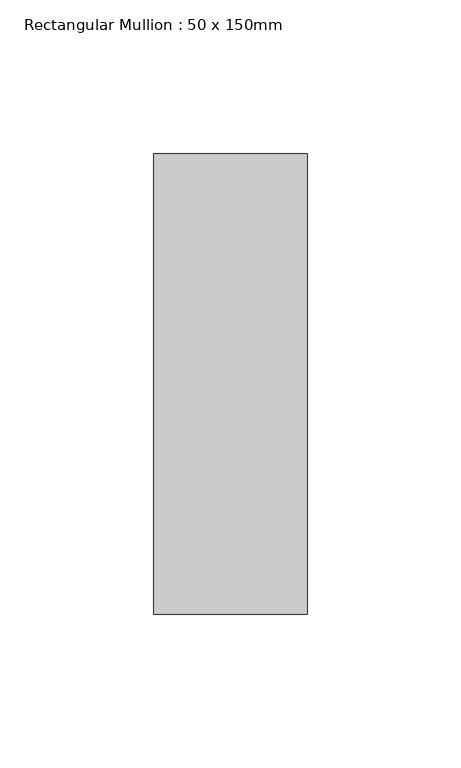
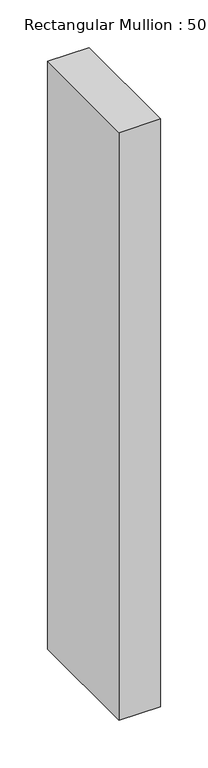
"""IFC4 building model written with IfcOpenShell, lengths in millimetres: member geometry, Rectangular Mullion : 50 x 150mm."""

from ifc_helpers import new_model, si_unit, frame, origin, place, context, project, spatial, polyline, outline, extrude, source, transform, mapped, element, save


def rectangular_mullion_50_x_150mm_823f78f2(model_context):
    return source(origin(), model_context, "Body", "SweptSolid", [
        extrude(outline(polyline([(25.0, 75.0), (25.0, -75.0), (-25.0, -75.0), (-25.0, 75.0), (25.0, 75.0)])), frame((0.0, 0.0, -751.5075557), z_axis=(0.0, 0.0, 1.0), x_axis=(1.0, 0.0, 0.0)), (0.0, 0.0, 1.0), 751.5075557),
    ])


if __name__ == "__main__":
    model = new_model("IFC4")
    model_context = context("Model", 3, world=origin())
    ifc_project = project(units=[si_unit("LENGTHUNIT", "METRE", prefix="MILLI")], contexts=[model_context])
    site = spatial("IfcSite", under=ifc_project)
    building = spatial("IfcBuilding", under=site)
    placement = place(None, origin())
    rectangular_mullion_50_x_150mm_shape = rectangular_mullion_50_x_150mm_823f78f2(model_context)
    element("IfcMember", 1, ObjectType="Rectangular Mullion : 50 x 150mm", at=placement, inside=building, context=model_context, shape_type="MappedRepresentation", body=[
        mapped(rectangular_mullion_50_x_150mm_shape, transform((0.0, 0.0, 0.0), x_axis=(1.0, 0.0, 0.0), y_axis=(0.0, 1.0, 0.0), z_axis=(0.0, 0.0, 1.0))),
    ])
    save(model, "model.ifc")
